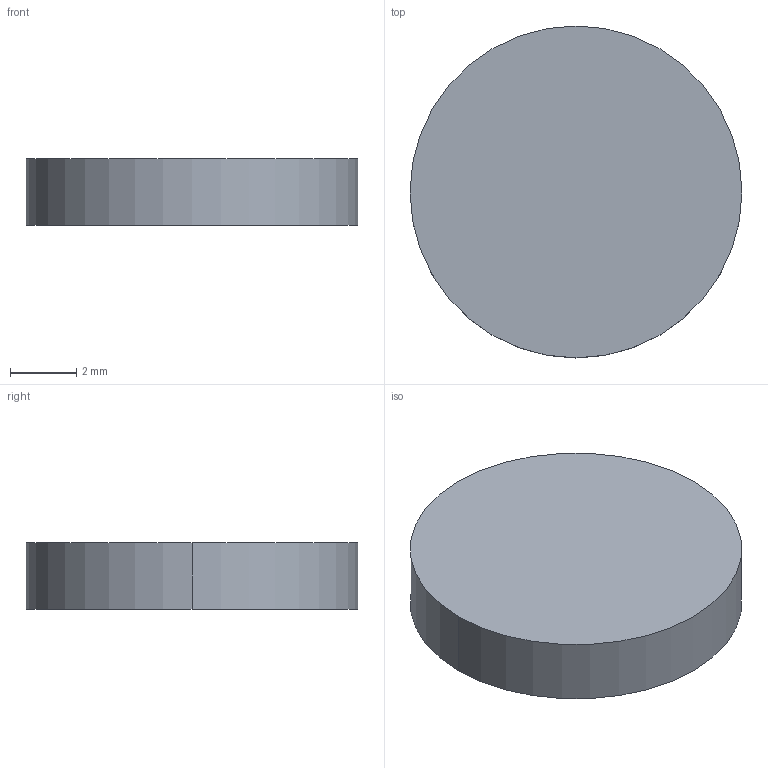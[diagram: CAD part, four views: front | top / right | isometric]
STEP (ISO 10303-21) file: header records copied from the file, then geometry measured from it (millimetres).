
FILE_DESCRIPTION (( 'STEP AP214' ), '1' );
FILE_NAME ('Íîæêà êîðïóñà.STEP', '2021-11-10T11:28:55', ( 'j03075@gmail.com' ), ( '' ), 'SwSTEP 2.0', 'SolidWorks 2021', '' );
FILE_SCHEMA (( 'AUTOMOTIVE_DESIGN' ));
Length unit declared in the file: millimetre
Products named in the file (1): Íîæêà êîðïóñà
Bounding box: 10 x 10 x 2 mm (x, y, z)
Volume: 106.8 mm3; surface area: 245 mm2
Topology: 1 solids, 1 shells, 7 faces, 12 edges, 8 vertices
Faces by surface type: cylinder 4, plane 3
Entity records: 208 total; most frequent: DIRECTION 36, CARTESIAN_POINT 28, ORIENTED_EDGE 24, AXIS2_PLACEMENT_3D 16, EDGE_CURVE 12, CIRCLE 8, VERTEX_POINT 8, EDGE_LOOP 8
